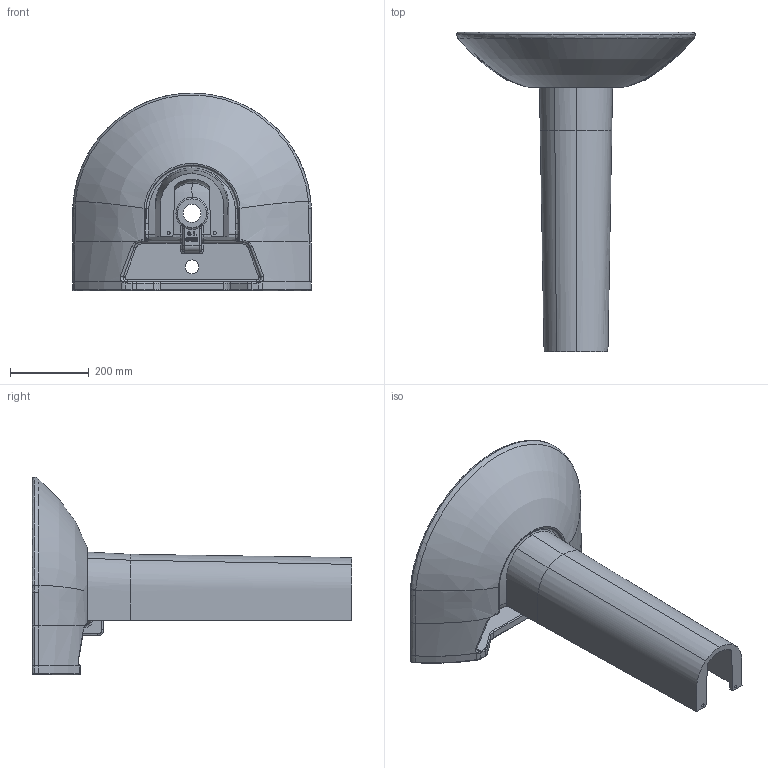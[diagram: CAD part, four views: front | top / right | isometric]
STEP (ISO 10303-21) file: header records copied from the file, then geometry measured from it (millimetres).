
FILE_DESCRIPTION (( 'STEP AP203' ), '1' );
FILE_NAME ('SL060+SL250.STEP', '2022-05-09T12:04:29', ( '' ), ( '' ), 'SwSTEP 2.0', 'SolidWorks 2021', '' );
FILE_SCHEMA (( 'CONFIG_CONTROL_DESIGN' ));
Length unit declared in the file: millimetre
Products named in the file (1): SL060+SL250
Bounding box: 603.92 x 809.02 x 500.96 mm (x, y, z)
Volume: 16761296.4 mm3; surface area: 1429770.6 mm2
Topology: 3 solids, 3 shells, 632 faces, 1527 edges, 875 vertices
Faces by surface type: bspline 370, cylinder 110, plane 74, torus 56, sphere 17, cone 5
Entity records: 57587 total; most frequent: CARTESIAN_POINT 45815, ORIENTED_EDGE 2992, DIRECTION 1607, EDGE_CURVE 1496, VERTEX_POINT 875, B_SPLINE_CURVE_WITH_KNOTS 781, AXIS2_PLACEMENT_3D 656, EDGE_LOOP 651
